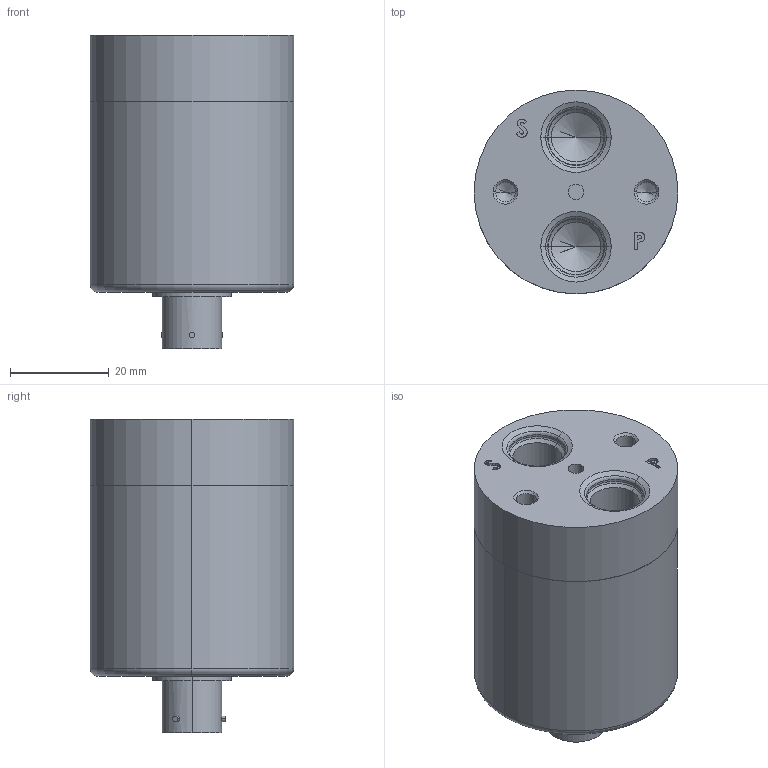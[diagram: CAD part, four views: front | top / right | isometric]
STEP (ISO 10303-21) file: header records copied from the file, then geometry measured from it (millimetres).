
FILE_DESCRIPTION (( 'STEP AP214' ), '1' );
FILE_NAME ('D45C-TYPE.STEP', '2008-01-14T13:13:52', ( 'Authorized User' ), ( 'Precision Sensors' ), 'SwSTEP 2.0', 'SolidWorks 2006303', '' );
FILE_SCHEMA (( 'AUTOMOTIVE_DESIGN' ));
Length unit declared in the file: inch
Products named in the file (1): D45C-TYPE
Bounding box: 41.27 x 41.27 x 63.55 mm (x, y, z)
Volume: 66685 mm3; surface area: 11392.4 mm2
Topology: 1 solids, 1 shells, 102 faces, 233 edges, 140 vertices
Faces by surface type: cylinder 30, plane 22, cone 20, bspline 20, torus 10
Entity records: 3806 total; most frequent: CARTESIAN_POINT 1582, ORIENTED_EDGE 450, DIRECTION 427, EDGE_CURVE 225, AXIS2_PLACEMENT_3D 165, VERTEX_POINT 140, EDGE_LOOP 117, FACE_OUTER_BOUND 102
